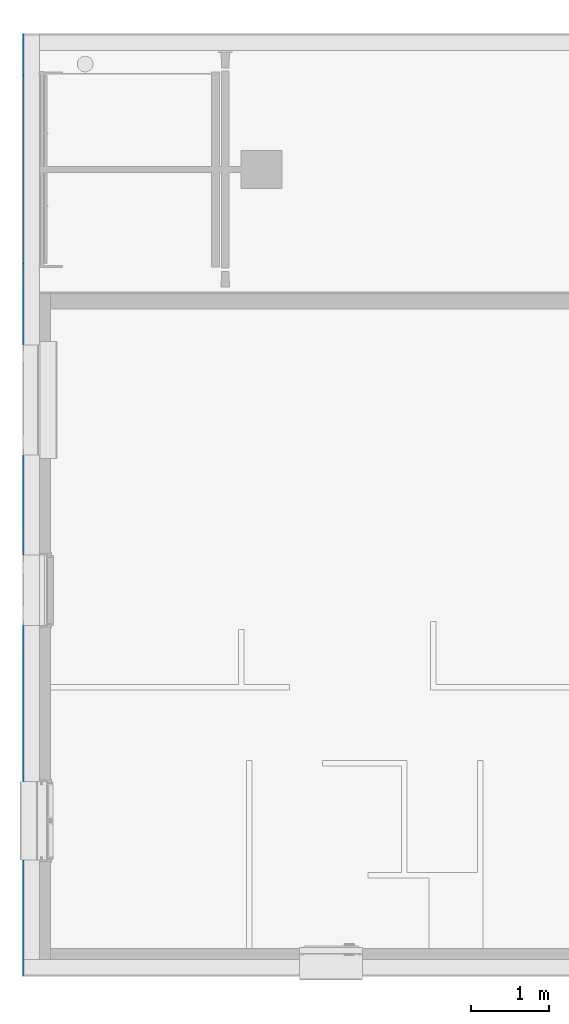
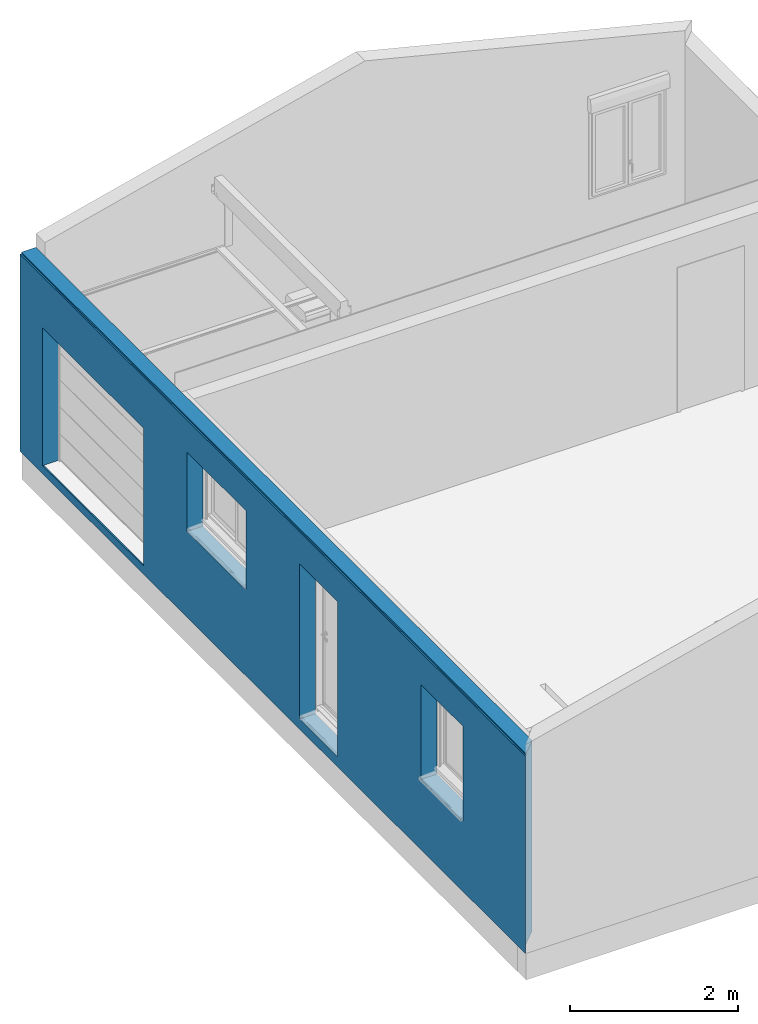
# One storey, part 4 of 7: 1 wall, 1 opening.
"""IFC2X3 building model written with IfcOpenShell, lengths in metres."""

from ifc_helpers import new_model, entity, si_unit, converted_unit, derived_unit, direction, frame, frame_2d, origin, place, context, subcontext, project, spatial, rectangle, extrude, faceted_brep, material, layer, layer_set, type_object, element, save


model = new_model("IFC2X3")

# Units and contexts
model_context = context("Model", 3, precision=1e-05, world=origin(), true_north=direction((6.123031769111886e-17, 1.0)))
body_context = subcontext(model_context, "Body", "Model", "MODEL_VIEW")
ifc_project = project(units=[si_unit("LENGTHUNIT", "METRE"), si_unit("AREAUNIT", "SQUARE_METRE"), si_unit("VOLUMEUNIT", "CUBIC_METRE"), converted_unit("PLANEANGLEUNIT", "DEGREE", entity("IfcRatioMeasure", 0.017453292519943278), si_unit("PLANEANGLEUNIT", "RADIAN"), dimensions=[0, 0, 0, 0, 0, 0, 0]), si_unit("MASSUNIT", "GRAM", prefix="KILO"), derived_unit("MASSDENSITYUNIT", [(si_unit("MASSUNIT", "GRAM", prefix="KILO"), 1), (si_unit("LENGTHUNIT", "METRE"), -3)]), derived_unit("IONCONCENTRATIONUNIT", [(si_unit("MASSUNIT", "GRAM", prefix="KILO"), 1), (si_unit("LENGTHUNIT", "METRE"), -3)]), derived_unit("MOMENTOFINERTIAUNIT", [(si_unit("LENGTHUNIT", "METRE"), 4)]), si_unit("TIMEUNIT", "SECOND"), si_unit("FREQUENCYUNIT", "HERTZ"), si_unit("THERMODYNAMICTEMPERATUREUNIT", "DEGREE_CELSIUS"), derived_unit("THERMALTRANSMITTANCEUNIT", [(si_unit("MASSUNIT", "GRAM", prefix="KILO"), 1), (si_unit("THERMODYNAMICTEMPERATUREUNIT", "KELVIN"), -1), (si_unit("TIMEUNIT", "SECOND"), -3)]), derived_unit("THERMALCONDUCTANCEUNIT", [(si_unit("MASSUNIT", "GRAM", prefix="KILO"), 1), (si_unit("THERMODYNAMICTEMPERATUREUNIT", "KELVIN"), -1), (si_unit("TIMEUNIT", "SECOND"), -3), (si_unit("LENGTHUNIT", "METRE"), 1)]), derived_unit("VOLUMETRICFLOWRATEUNIT", [(si_unit("LENGTHUNIT", "METRE"), 3), (si_unit("TIMEUNIT", "SECOND"), -1)]), derived_unit("MASSFLOWRATEUNIT", [(si_unit("MASSUNIT", "GRAM", prefix="KILO"), 1), (si_unit("TIMEUNIT", "SECOND"), -1)]), derived_unit("ROTATIONALFREQUENCYUNIT", [(si_unit("TIMEUNIT", "SECOND"), -1)]), si_unit("ELECTRICCURRENTUNIT", "AMPERE"), si_unit("ELECTRICVOLTAGEUNIT", "VOLT"), si_unit("POWERUNIT", "WATT"), si_unit("FORCEUNIT", "NEWTON", prefix="KILO"), si_unit("ILLUMINANCEUNIT", "LUX"), si_unit("LUMINOUSFLUXUNIT", "LUMEN"), si_unit("LUMINOUSINTENSITYUNIT", "CANDELA"), derived_unit("USERDEFINED", [(si_unit("MASSUNIT", "GRAM", prefix="KILO"), -1), (si_unit("LENGTHUNIT", "METRE"), -2), (si_unit("TIMEUNIT", "SECOND"), 3), (si_unit("LUMINOUSFLUXUNIT", "LUMEN"), 1)]), derived_unit("USERDEFINED", [(si_unit("MASSUNIT", "GRAM", prefix="KILO"), 1), (si_unit("TIMEUNIT", "SECOND"), -3), (si_unit("LENGTHUNIT", "METRE"), 3), (si_unit("ELECTRICCURRENTUNIT", "AMPERE"), -2)]), derived_unit("SOUNDPOWERUNIT", [(si_unit("MASSUNIT", "GRAM", prefix="KILO"), 1), (si_unit("TIMEUNIT", "SECOND"), -3), (si_unit("LENGTHUNIT", "METRE"), 2)]), derived_unit("SOUNDPRESSUREUNIT", [(si_unit("MASSUNIT", "GRAM", prefix="KILO"), 1), (si_unit("LENGTHUNIT", "METRE"), -1), (si_unit("TIMEUNIT", "SECOND"), -2)]), derived_unit("LINEARVELOCITYUNIT", [(si_unit("LENGTHUNIT", "METRE"), 1), (si_unit("TIMEUNIT", "SECOND"), -1)]), si_unit("PRESSUREUNIT", "PASCAL"), derived_unit("USERDEFINED", [(si_unit("MASSUNIT", "GRAM", prefix="KILO"), 1), (si_unit("LENGTHUNIT", "METRE"), -2), (si_unit("TIMEUNIT", "SECOND"), -2)]), derived_unit("LINEARFORCEUNIT", [(si_unit("MASSUNIT", "GRAM", prefix="KILO"), 1), (si_unit("TIMEUNIT", "SECOND"), -2)]), derived_unit("PLANARFORCEUNIT", [(si_unit("MASSUNIT", "GRAM", prefix="KILO"), 1), (si_unit("LENGTHUNIT", "METRE"), -1), (si_unit("TIMEUNIT", "SECOND"), -2)]), derived_unit("SPECIFICHEATCAPACITYUNIT", [(si_unit("THERMODYNAMICTEMPERATUREUNIT", "KELVIN"), -1), (si_unit("LENGTHUNIT", "METRE"), 2), (si_unit("TIMEUNIT", "SECOND"), -2)]), derived_unit("HEATINGVALUEUNIT", [(si_unit("LENGTHUNIT", "METRE"), 2), (si_unit("TIMEUNIT", "SECOND"), -2)]), derived_unit("VAPORPERMEABILITYUNIT", [(si_unit("LENGTHUNIT", "METRE"), -1), (si_unit("TIMEUNIT", "SECOND"), 1)]), derived_unit("DYNAMICVISCOSITYUNIT", [(si_unit("MASSUNIT", "GRAM", prefix="KILO"), 1), (si_unit("TIMEUNIT", "SECOND"), -1), (si_unit("LENGTHUNIT", "METRE"), -1)]), derived_unit("THERMALEXPANSIONCOEFFICIENTUNIT", [(si_unit("THERMODYNAMICTEMPERATUREUNIT", "KELVIN"), -1)]), derived_unit("MODULUSOFELASTICITYUNIT", [(si_unit("MASSUNIT", "GRAM", prefix="KILO"), 1), (si_unit("LENGTHUNIT", "METRE"), -1), (si_unit("TIMEUNIT", "SECOND"), -2)]), derived_unit("ISOTHERMALMOISTURECAPACITYUNIT", [(si_unit("LENGTHUNIT", "METRE"), 3), (si_unit("MASSUNIT", "GRAM", prefix="KILO"), -1)]), derived_unit("MOISTUREDIFFUSIVITYUNIT", [(si_unit("TIMEUNIT", "SECOND"), -1), (si_unit("LENGTHUNIT", "METRE"), 2)])], contexts=[model_context])

# Site, building, storey
site_placement = place(None, frame((1.2553507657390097, -0.6266432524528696, -1.0397761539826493), z_axis=(0.0, 0.0, 1.0), x_axis=(-1.0, 0.0, 0.0)))
site = spatial("IfcSite", under=ifc_project, at=site_placement, Name="Default", CompositionType="ELEMENT")
building_placement = place(site_placement, origin())
building = spatial("IfcBuilding", under=site, at=building_placement, Name="MAISON D'HABITATION", CompositionType="ELEMENT")
storey_placement = place(building_placement, frame((0.0, 0.0, 0.38977615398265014)))
storey = spatial("IfcBuildingStorey", under=building, at=storey_placement, Name="Niveau dessus semelle filante", CompositionType="ELEMENT", Elevation=0.38977615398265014)

# Wall, opening
ifc_material_1 = material(Name="Enduit gratté")
ifc_layer_1 = layer(ifc_material_1, 0.018)
ifc_material_2 = material(Name="Agglo creux, parpaing")
ifc_layer_2 = layer(ifc_material_2, 0.2)
ifc_layer_set = layer_set([ifc_layer_1, ifc_layer_2], Name="Mur de base:parpaing+enduit 18cm")
wall_type = type_object("IfcWallType", Name="Mur de base:parpaing+enduit 18cm", PredefinedType="STANDARD", material=ifc_layer_set)
wall_placement = place(storey_placement, frame((4.22913300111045, 3.3541830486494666, 0.39999999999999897), z_axis=(0.0, 0.0, 1.0), x_axis=(0.0, -1.0, 0.0)))
wall = element("IfcWall", 1, at=wall_placement, inside=storey, type_object=wall_type, Name="Mur de base:parpaing+enduit 18cm", ObjectType="Mur de base:parpaing+enduit 18cm", context=body_context, shape_type="Brep", body=[
    faceted_brep([(12.036, -0.10900000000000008, 2.889999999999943), (0.2180000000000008, -0.1090000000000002, 2.889999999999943), (0.2180000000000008, -0.1090000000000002, 0.12000000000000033), (8.718000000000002, -0.10900000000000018, 0.12000000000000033), (8.736, -0.10900000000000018, 0.12000000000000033), (9.09800043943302, -0.10900000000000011, 0.12000000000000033), (9.09800043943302, -0.10900000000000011, 2.12), (11.498000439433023, -0.10900000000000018, 2.12), (11.498000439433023, -0.10900000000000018, 0.12000000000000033), (11.818000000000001, -0.10900000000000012, 0.12000000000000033), (12.036, -0.10900000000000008, 0.12000000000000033), (4.478000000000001, -0.10900000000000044, 0.1499999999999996), (4.478000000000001, -0.10900000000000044, 0.25000000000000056), (4.478000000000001, -0.10900000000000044, 2.4000000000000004), (5.378, -0.10900000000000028, 2.4000000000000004), (5.378, -0.10900000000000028, 0.25000000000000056), (5.378, -0.10900000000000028, 0.1499999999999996), (1.488000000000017, -0.10900000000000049, 2.399999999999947), (2.488000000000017, -0.10900000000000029, 2.399999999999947), (2.488000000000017, -0.10900000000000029, 1.1244999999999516), (2.4880000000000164, -0.10900000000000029, 1.0244999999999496), (1.488000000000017, -0.10900000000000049, 1.0244999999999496), (1.488000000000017, -0.10900000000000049, 1.1244999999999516), (6.658, -0.10900000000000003, 2.4000000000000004), (8.058, -0.10900000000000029, 2.4000000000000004), (8.058, -0.10900000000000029, 1.3500000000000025), (8.058, -0.10900000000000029, 1.2500000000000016), (6.658000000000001, -0.10900000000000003, 1.250000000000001), (6.658000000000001, -0.10900000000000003, 1.3500000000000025), (0.0, 0.10900000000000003, 0.0), (0.0, 0.10900000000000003, 2.866499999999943), (12.036000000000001, 0.10900000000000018, 2.866499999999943), (12.036, 0.10900000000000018, 0.0), (5.377999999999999, 0.10899999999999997, 2.4000000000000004), (4.478, 0.1089999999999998, 2.3999999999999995), (4.478, 0.1089999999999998, 0.1499999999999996), (5.377999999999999, 0.10899999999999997, 0.14999999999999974), (11.498000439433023, 0.10900000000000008, 2.12), (9.09800043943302, 0.10900000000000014, 2.12), (9.098000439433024, 0.10900000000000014, 0.12000000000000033), (11.498000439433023, 0.10900000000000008, 0.12000000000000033), (8.057999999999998, 0.10899999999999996, 2.4000000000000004), (6.658, 0.10900000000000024, 2.4000000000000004), (6.658, 0.10900000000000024, 1.2500000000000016), (8.057999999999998, 0.10899999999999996, 1.2500000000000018), (2.4880000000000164, 0.10899999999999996, 2.399999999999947), (1.4880000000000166, 0.10899999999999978, 2.399999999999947), (1.4880000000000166, 0.10899999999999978, 1.0244999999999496), (2.4880000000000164, 0.10899999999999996, 1.0244999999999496), (0.018000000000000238, 0.09099999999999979, 2.889999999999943), (0.018000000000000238, 0.09099999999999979, 2.866499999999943), (0.017999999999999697, 0.09099999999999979, 0.0), (0.018000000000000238, 0.09099999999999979, 0.12000000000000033), (9.098000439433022, 0.0909999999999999, 0.12000000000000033), (11.498000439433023, 0.09099999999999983, 0.12000000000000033), (12.017999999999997, 0.09099999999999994, 0.12000000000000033), (12.035999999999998, 0.09099999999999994, 0.12000000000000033), (12.017999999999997, 0.09099999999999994, 0.0), (12.036000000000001, 0.09099999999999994, 0.0), (12.036000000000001, 0.09099999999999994, 2.889999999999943), (12.036000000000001, 0.09099999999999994, 2.866499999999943)], [[[0, 1, 2, 3, 4, 5, 6, 7, 8, 9, 10], [11, 12, 13, 14, 15, 16], [17, 18, 19, 20, 21, 22], [23, 24, 25, 26, 27, 28]], [[29, 30, 31, 32], [33, 34, 35, 36], [37, 38, 39, 40], [41, 42, 43, 44], [45, 46, 47, 48]], [[2, 1, 49, 50, 30, 29, 51, 52]], [[33, 14, 13, 34]], [[34, 13, 12, 11, 35]], [[14, 33, 36, 16, 15]], [[35, 11, 16, 36]], [[6, 38, 37, 7]], [[38, 6, 5, 53, 39]], [[40, 39, 53, 54]], [[7, 37, 40, 54, 8]], [[23, 42, 41, 24]], [[42, 23, 28, 27, 43]], [[24, 41, 44, 26, 25]], [[43, 27, 26, 44]], [[17, 46, 45, 18]], [[18, 45, 48, 20, 19]], [[46, 17, 22, 21, 47]], [[20, 48, 47, 21]], [[10, 9, 8, 54, 55, 56]], [[52, 51, 57, 58, 56, 55, 54, 53]], [[51, 29, 32, 58, 57]], [[1, 0, 59, 49]], [[49, 59, 60, 50]], [[0, 10, 56, 58, 32, 31, 60, 59]], [[31, 30, 50, 60]], [[2, 52, 53, 5, 4, 3]]]),
])
opening_placement = place(wall_placement, frame((11.498000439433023, 0.1089999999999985, 0.12000000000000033)))
element("IfcOpeningElement", 2, at=opening_placement, cuts=wall, Name="porte garage sectionnel:Portail sectionnel Electrique aluminuim:1", ObjectType="Opening", context=body_context, shape_type="SweptSolid", body=[
    extrude(rectangle(XDim=1.9999999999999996, YDim=2.4000000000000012, at=frame_2d((0.9999999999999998, 1.1999999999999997), x_axis=(1.0, 0.0))), frame((0.0, 0.0, 0.0), z_axis=(0.0, -1.0, 0.0), x_axis=(0.0, 0.0, 1.0)), (0.0, 0.0, 1.0), 0.21799999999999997),
])

save(model, "model.ifc")
